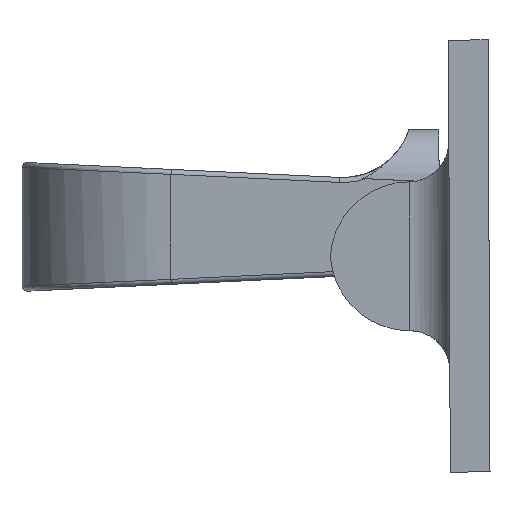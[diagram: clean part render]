
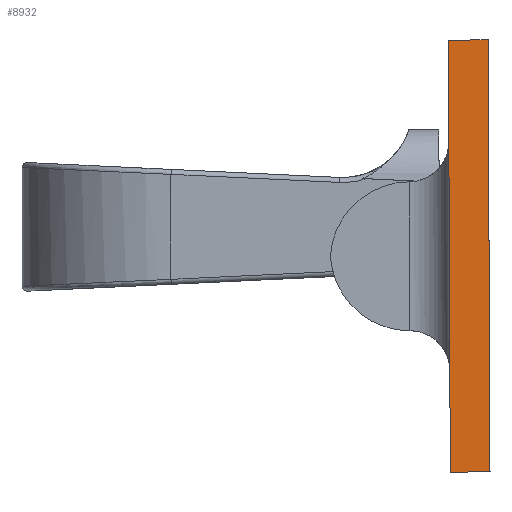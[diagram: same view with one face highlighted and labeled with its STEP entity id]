
A CAD part, left-side view. The second image highlights one B-rep face of the part: STEP entity #8932.
In plain terms, the highlighted planar face has unit normal (-1, 0, 0).
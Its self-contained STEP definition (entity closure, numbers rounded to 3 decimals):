
#90 = LINE ( 'NONE', #2196, #7557 ) ;
#97 = ORIENTED_EDGE ( 'NONE', *, *, #230, .T. ) ;
#210 = CARTESIAN_POINT ( 'NONE',  ( -72., -42.986, 18.806 ) ) ;
#230 = EDGE_CURVE ( 'NONE', #8213, #2810, #486, .T. ) ;
#235 = ORIENTED_EDGE ( 'NONE', *, *, #4997, .T. ) ;
#486 = LINE ( 'NONE', #3358, #1534 ) ;
#884 = LINE ( 'NONE', #210, #6396 ) ;
#1369 = LINE ( 'NONE', #8251, #4007 ) ;
#1534 = VECTOR ( 'NONE', #6113, 1000. ) ;
#1685 = DIRECTION ( 'NONE',  ( 0., 0., 1. ) ) ;
#1730 = FACE_OUTER_BOUND ( 'NONE', #6403, .T. ) ;
#2196 = CARTESIAN_POINT ( 'NONE',  ( -72., -42.986, 18.806 ) ) ;
#2369 = CARTESIAN_POINT ( 'NONE',  ( -72., -42.986, 18.806 ) ) ;
#2390 = EDGE_CURVE ( 'NONE', #3209, #6559, #90, .T. ) ;
#2810 = VERTEX_POINT ( 'NONE', #4183 ) ;
#3209 = VERTEX_POINT ( 'NONE', #7698 ) ;
#3358 = CARTESIAN_POINT ( 'NONE',  ( -72., -43.174, -24.694 ) ) ;
#3424 = DIRECTION ( 'NONE',  ( 0., -0.004, -1. ) ) ;
#3520 = DIRECTION ( 'NONE',  ( 0., -0.004, -1. ) ) ;
#4007 = VECTOR ( 'NONE', #3424, 1000. ) ;
#4183 = CARTESIAN_POINT ( 'NONE',  ( -72., -47.174, -24.676 ) ) ;
#4997 = EDGE_CURVE ( 'NONE', #3209, #8213, #884, .T. ) ;
#5478 = DIRECTION ( 'NONE',  ( 0., -1., 0.004 ) ) ;
#6113 = DIRECTION ( 'NONE',  ( 0., -1., 0.004 ) ) ;
#6196 = CARTESIAN_POINT ( 'NONE',  ( -72., -43.174, -24.694 ) ) ;
#6396 = VECTOR ( 'NONE', #3520, 1000. ) ;
#6403 = EDGE_LOOP ( 'NONE', ( #7556, #7882, #235, #97 ) ) ;
#6559 = VERTEX_POINT ( 'NONE', #7453 ) ;
#7170 = PLANE ( 'NONE',  #8934 ) ;
#7453 = CARTESIAN_POINT ( 'NONE',  ( -72., -46.986, 18.823 ) ) ;
#7556 = ORIENTED_EDGE ( 'NONE', *, *, #8751, .F. ) ;
#7557 = VECTOR ( 'NONE', #5478, 1000. ) ;
#7698 = CARTESIAN_POINT ( 'NONE',  ( -72., -42.986, 18.806 ) ) ;
#7882 = ORIENTED_EDGE ( 'NONE', *, *, #2390, .F. ) ;
#7884 = DIRECTION ( 'NONE',  ( -1., 0., 0. ) ) ;
#8213 = VERTEX_POINT ( 'NONE', #6196 ) ;
#8251 = CARTESIAN_POINT ( 'NONE',  ( -72., -46.986, 18.823 ) ) ;
#8751 = EDGE_CURVE ( 'NONE', #6559, #2810, #1369, .T. ) ;
#8932 = ADVANCED_FACE ( 'NONE', ( #1730 ), #7170, .T. ) ;
#8934 = AXIS2_PLACEMENT_3D ( 'NONE', #2369, #7884, #1685 ) ;
